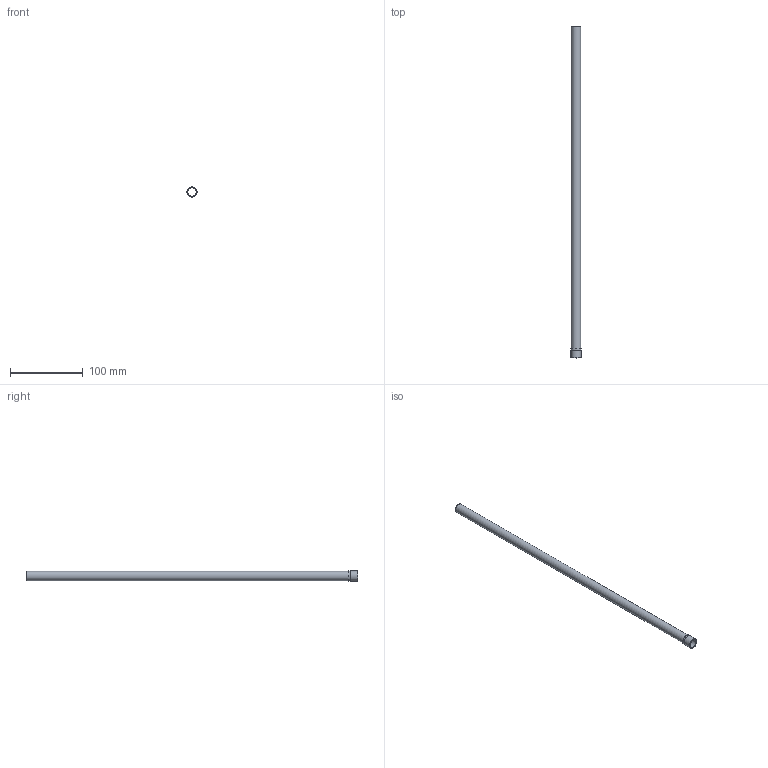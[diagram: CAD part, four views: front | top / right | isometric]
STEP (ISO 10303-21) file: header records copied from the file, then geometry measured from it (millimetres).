
FILE_DESCRIPTION(/* description */ (''),/* implementation_level */ '2;1');
FILE_NAME(/* name */ 'C:/Users/drich/Desktop/HF500T-18 v1.step',/* time_stamp */ '2019-12-30T13:30:55-06:00',/* author */ (''),/* organization */ (''),/* preprocessor_version */ 'ST-DEVELOPER v18',/* originating_system */ 'Autodesk Translation Framework v8.12.0.6',/* authorisation */ '');
FILE_SCHEMA (('AUTOMOTIVE_DESIGN { 1 0 10303 214 3 1 1 }'));
Length unit declared in the file: inch
Products named in the file (1): HF500T-18
Bounding box: 14.33 x 457.2 x 14.33 mm (x, y, z)
Volume: 12666.2 mm3; surface area: 34606.3 mm2
Topology: 1 solids, 1 shells, 12 faces, 30 edges, 22 vertices
Faces by surface type: plane 4, cylinder 4, torus 3, cone 1
Full cylindrical faces by diameter (mm): 11.278 x1, 12.7 x1, 14.143 x1, 14.326 x1
Entity records: 426 total; most frequent: DIRECTION 81, CARTESIAN_POINT 65, ORIENTED_EDGE 60, AXIS2_PLACEMENT_3D 38, EDGE_CURVE 30, CIRCLE 25, VERTEX_POINT 22, EDGE_LOOP 16
